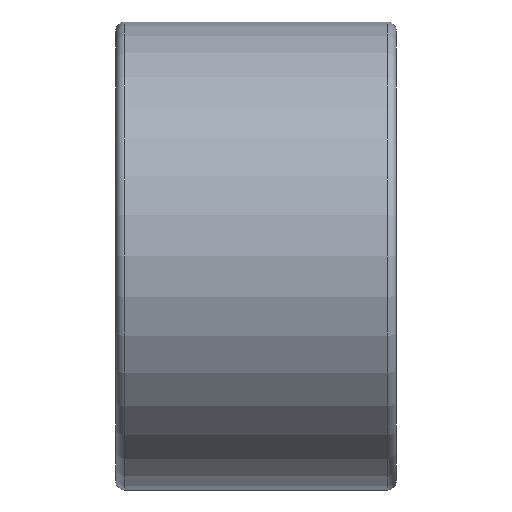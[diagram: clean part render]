
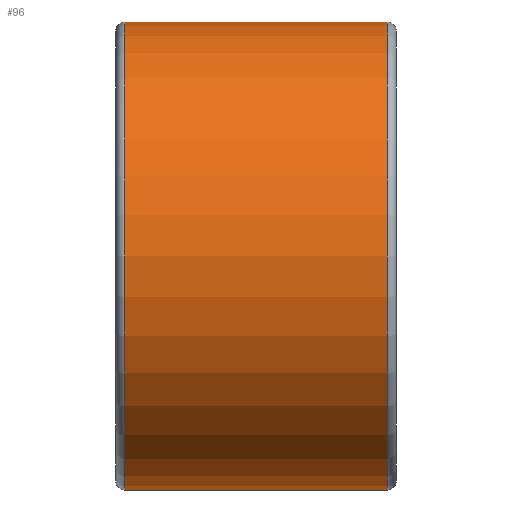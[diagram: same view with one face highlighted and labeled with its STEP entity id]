
A CAD part, front view. The second image highlights one B-rep face of the part: STEP entity #96.
In plain terms, the highlighted cylindrical face has radius 5 mm (diameter 10 mm), a full revolution.
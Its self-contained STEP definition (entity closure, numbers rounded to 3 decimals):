
#19=LINE('',#180,#21);
#21=VECTOR('',#147,5.);
#23=CYLINDRICAL_SURFACE('',#120,5.);
#26=FACE_OUTER_BOUND('',#32,.T.);
#32=EDGE_LOOP('',(#74,#75,#76,#77,#78,#79));
#39=CIRCLE('',#116,5.);
#42=CIRCLE('',#119,5.);
#43=CIRCLE('',#121,5.);
#44=CIRCLE('',#122,5.);
#49=VERTEX_POINT('',#169);
#50=VERTEX_POINT('',#170);
#52=VERTEX_POINT('',#177);
#53=VERTEX_POINT('',#178);
#57=EDGE_CURVE('',#49,#50,#39,.T.);
#60=EDGE_CURVE('',#50,#49,#42,.T.);
#61=EDGE_CURVE('',#52,#53,#43,.T.);
#62=EDGE_CURVE('',#52,#49,#19,.T.);
#63=EDGE_CURVE('',#53,#52,#44,.T.);
#74=ORIENTED_EDGE('',*,*,#61,.F.);
#75=ORIENTED_EDGE('',*,*,#62,.T.);
#76=ORIENTED_EDGE('',*,*,#60,.F.);
#77=ORIENTED_EDGE('',*,*,#57,.F.);
#78=ORIENTED_EDGE('',*,*,#62,.F.);
#79=ORIENTED_EDGE('',*,*,#63,.F.);
#96=ADVANCED_FACE('',(#26),#23,.T.);
#116=AXIS2_PLACEMENT_3D('',#171,#135,#136);
#119=AXIS2_PLACEMENT_3D('',#175,#141,#142);
#120=AXIS2_PLACEMENT_3D('',#176,#143,#144);
#121=AXIS2_PLACEMENT_3D('',#179,#145,#146);
#122=AXIS2_PLACEMENT_3D('',#181,#148,#149);
#135=DIRECTION('center_axis',(1.,0.,0.));
#136=DIRECTION('ref_axis',(0.,-1.,0.));
#141=DIRECTION('center_axis',(1.,0.,0.));
#142=DIRECTION('ref_axis',(0.,-1.,0.));
#143=DIRECTION('center_axis',(-1.,0.,0.));
#144=DIRECTION('ref_axis',(0.,-1.,0.));
#145=DIRECTION('center_axis',(-1.,0.,0.));
#146=DIRECTION('ref_axis',(0.,-1.,0.));
#147=DIRECTION('',(1.,0.,0.));
#148=DIRECTION('center_axis',(-1.,0.,0.));
#149=DIRECTION('ref_axis',(0.,-1.,0.));
#169=CARTESIAN_POINT('',(-0.2,5.,0.));
#170=CARTESIAN_POINT('',(-0.2,0.,-5.));
#171=CARTESIAN_POINT('Origin',(-0.2,0.,0.));
#175=CARTESIAN_POINT('Origin',(-0.2,0.,0.));
#176=CARTESIAN_POINT('Origin',(0.,0.,0.));
#177=CARTESIAN_POINT('',(-5.8,5.,0.));
#178=CARTESIAN_POINT('',(-5.8,0.,-5.));
#179=CARTESIAN_POINT('Origin',(-5.8,0.,0.));
#180=CARTESIAN_POINT('',(0.,5.,0.));
#181=CARTESIAN_POINT('Origin',(-5.8,0.,0.));
